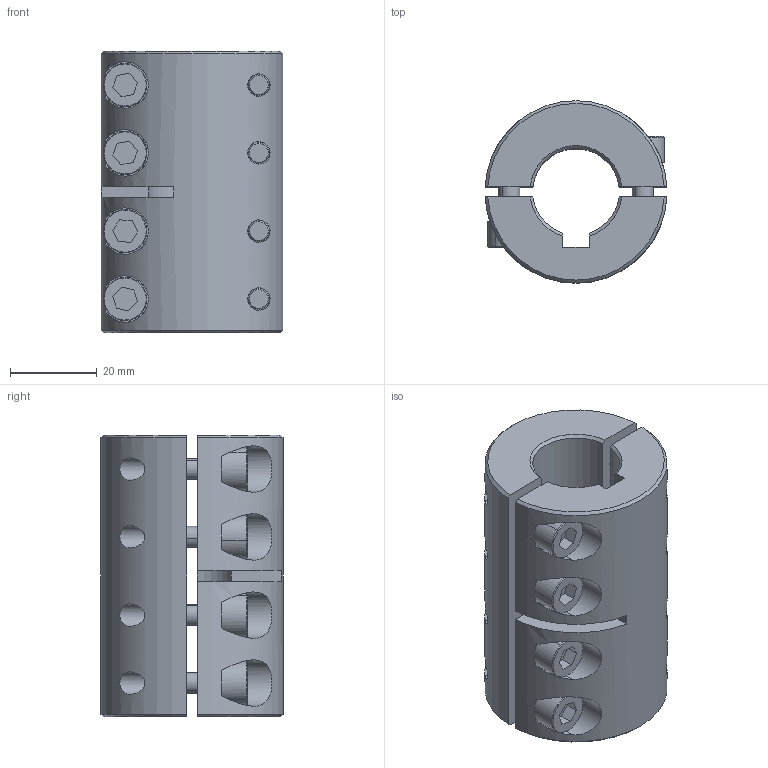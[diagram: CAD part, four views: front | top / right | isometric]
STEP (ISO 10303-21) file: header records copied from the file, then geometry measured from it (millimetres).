
FILE_DESCRIPTION((''),'2;1');
FILE_NAME('MSPC-20-20-X','2016-09-08T',('SYSTEM'),(''),'PRO/ENGINEER BY PARAMETRIC TECHNOLOGY CORPORATION, 2015110','PRO/ENGINEER BY PARAMETRIC TECHNOLOGY CORPORATION, 2015110','');
FILE_SCHEMA(('AUTOMOTIVE_DESIGN { 1 0 10303 214 1 1 1 1 }'));
Length unit declared in the file: inch
Products named in the file (1): MSPC-20-20-X
Bounding box: 41.93 x 42 x 65 mm (x, y, z)
Volume: 61063.8 mm3; surface area: 25157.5 mm2
Topology: 2 solids, 2 shells, 250 faces, 594 edges, 380 vertices
Faces by surface type: plane 115, cylinder 93, cone 42
Entity records: 9544 total; most frequent: CARTESIAN_POINT 1794, DIRECTION 1246, ORIENTED_EDGE 1188, PRESENTATION_STYLE_ASSIGNMENT 596, STYLED_ITEM 596, CURVE_STYLE 594, EDGE_CURVE 594, AXIS2_PLACEMENT_3D 462
